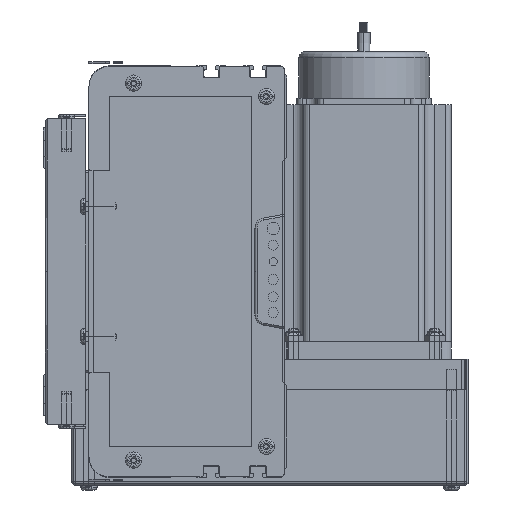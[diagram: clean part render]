
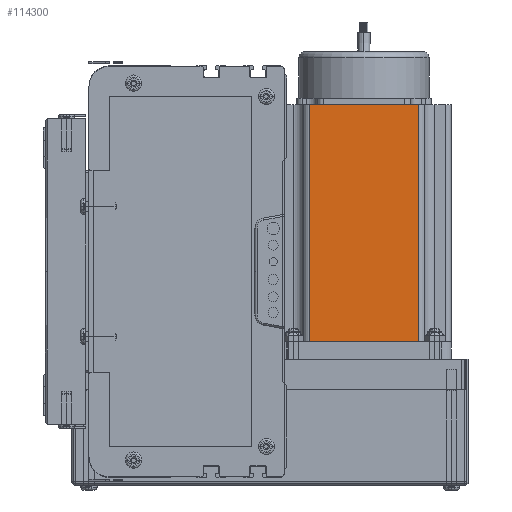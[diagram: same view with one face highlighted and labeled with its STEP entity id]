
A CAD part, left-side view. The second image highlights one B-rep face of the part: STEP entity #114300.
In plain terms, the highlighted planar face has unit normal (-1, 0, 0) as drawn and (0, -1, 0) by its records, which use the part's own axes.
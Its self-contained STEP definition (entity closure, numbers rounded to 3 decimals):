
#63140 = DIRECTION ( 'NONE',  ( 1., 0., 0. ) ) ;
#63384 = VECTOR ( 'NONE', #63140, 1000. ) ;
#63387 = CARTESIAN_POINT ( 'NONE',  ( 0., 0., 116.5 ) ) ;
#63389 = LINE ( 'NONE', #63387, #63384 ) ;
#63983 = CARTESIAN_POINT ( 'NONE',  ( 69.74, 0., 116.5 ) ) ;
#64003 = AXIS2_PLACEMENT_3D ( 'NONE', #64243, #64191, #64189 ) ;
#64183 = CARTESIAN_POINT ( 'NONE',  ( 69.74, 0., 0. ) ) ;
#64189 = DIRECTION ( 'NONE',  ( 0., 0., 1. ) ) ;
#64191 = DIRECTION ( 'NONE',  ( 0., 1., 0. ) ) ;
#64235 = FACE_OUTER_BOUND ( 'NONE', #115878, .T. ) ;
#64243 = CARTESIAN_POINT ( 'NONE',  ( 0., 0., 116.5 ) ) ;
#64247 = PLANE ( 'NONE',  #64003 ) ;
#64285 = CARTESIAN_POINT ( 'NONE',  ( 16.16, 0., 116.5 ) ) ;
#64288 = CARTESIAN_POINT ( 'NONE',  ( 16.16, 0., 0. ) ) ;
#65544 = DIRECTION ( 'NONE',  ( 0., 0., -1. ) ) ;
#65546 = CARTESIAN_POINT ( 'NONE',  ( 16.16, 0., 116.5 ) ) ;
#65657 = VECTOR ( 'NONE', #65544, 1000. ) ;
#65662 = LINE ( 'NONE', #65546, #65657 ) ;
#66475 = DIRECTION ( 'NONE',  ( 1., 0., 0. ) ) ;
#66477 = VECTOR ( 'NONE', #66475, 1000. ) ;
#66478 = CARTESIAN_POINT ( 'NONE',  ( 0., 0., 0. ) ) ;
#66494 = LINE ( 'NONE', #66478, #66477 ) ;
#66999 = DIRECTION ( 'NONE',  ( 0., 0., 1. ) ) ;
#67001 = VECTOR ( 'NONE', #66999, 1000. ) ;
#67003 = CARTESIAN_POINT ( 'NONE',  ( 69.74, 0., 116.5 ) ) ;
#67004 = LINE ( 'NONE', #67003, #67001 ) ;
#113814 = EDGE_CURVE ( 'NONE', #114687, #114197, #63389, .T. ) ;
#114197 = VERTEX_POINT ( 'NONE', #63983 ) ;
#114219 = ORIENTED_EDGE ( 'NONE', *, *, #115807, .T. ) ;
#114300 = ADVANCED_FACE ( 'NONE', ( #64235 ), #64247, .F. ) ;
#114606 = VERTEX_POINT ( 'NONE', #64183 ) ;
#114649 = VERTEX_POINT ( 'NONE', #64288 ) ;
#114687 = VERTEX_POINT ( 'NONE', #64285 ) ;
#114707 = ORIENTED_EDGE ( 'NONE', *, *, #115896, .T. ) ;
#114990 = ORIENTED_EDGE ( 'NONE', *, *, #113814, .F. ) ;
#115807 = EDGE_CURVE ( 'NONE', #114687, #114649, #65662, .T. ) ;
#115878 = EDGE_LOOP ( 'NONE', ( #115905, #114707, #114990, #114219 ) ) ;
#115881 = EDGE_CURVE ( 'NONE', #114649, #114606, #66494, .T. ) ;
#115896 = EDGE_CURVE ( 'NONE', #114606, #114197, #67004, .T. ) ;
#115905 = ORIENTED_EDGE ( 'NONE', *, *, #115881, .T. ) ;
